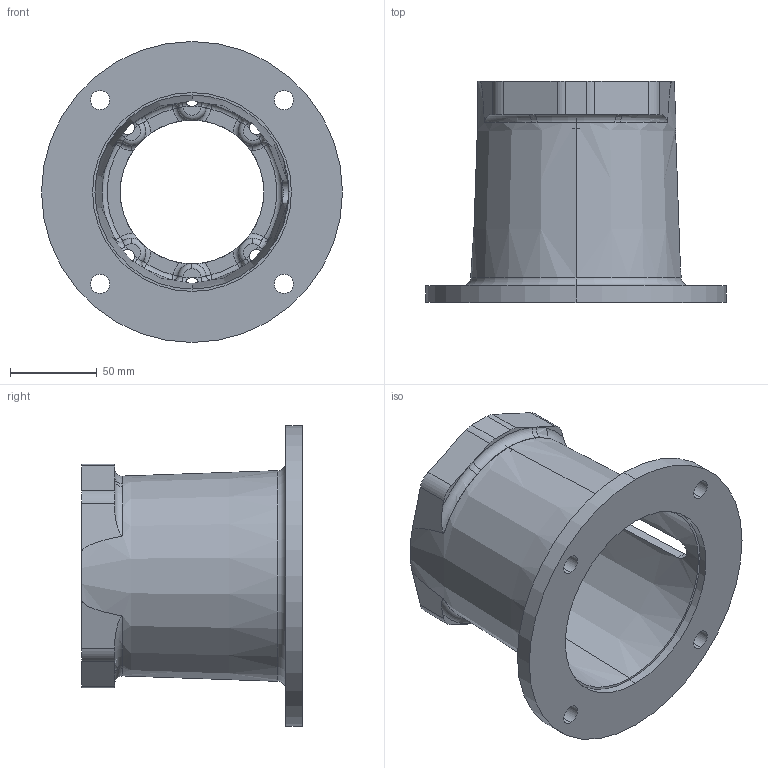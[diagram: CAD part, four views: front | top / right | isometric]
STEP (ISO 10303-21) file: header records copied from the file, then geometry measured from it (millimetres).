
FILE_DESCRIPTION (( 'STEP AP203' ), '1' );
FILE_NAME ('M056502A.STEP', '2007-12-21T20:25:48', ( 'Chris McCoy' ), ( 'Magnaloy Coupling Co' ), 'SwSTEP 2.0', 'SolidWorks 2007', '' );
FILE_SCHEMA (( 'CONFIG_CONTROL_DESIGN' ));
Length unit declared in the file: inch
Products named in the file (1): M056502A
Bounding box: 172.97 x 127 x 172.97 mm (x, y, z)
Volume: 387205.8 mm3; surface area: 129308.9 mm2
Topology: 1 solids, 1 shells, 210 faces, 564 edges, 336 vertices
Faces by surface type: torus 61, cylinder 43, plane 34, bspline 28, sphere 24, cone 20
Entity records: 8954 total; most frequent: CARTESIAN_POINT 3782, DIRECTION 1111, ORIENTED_EDGE 1096, EDGE_CURVE 548, AXIS2_PLACEMENT_3D 513, VERTEX_POINT 336, CIRCLE 330, EDGE_LOOP 230
